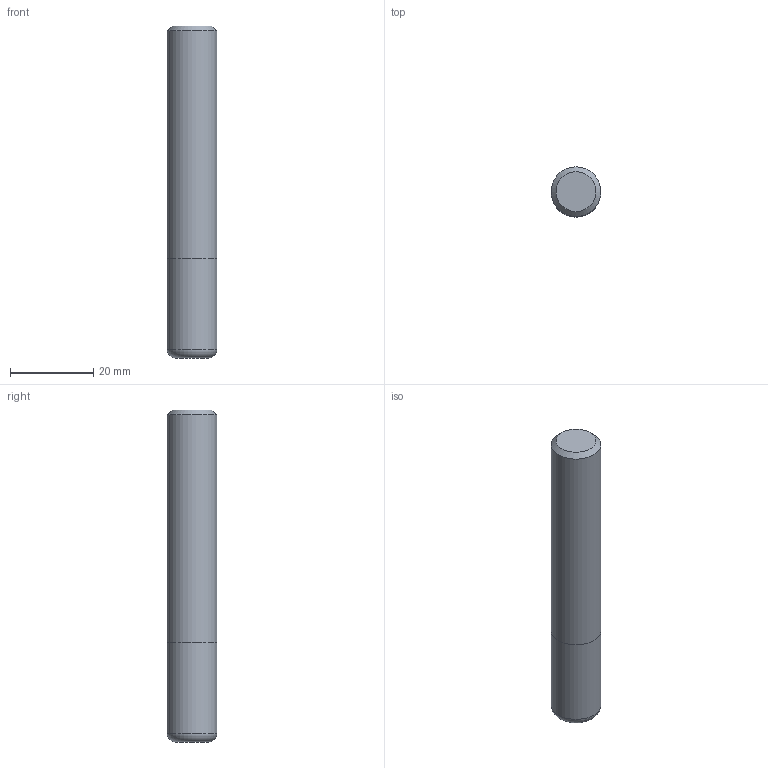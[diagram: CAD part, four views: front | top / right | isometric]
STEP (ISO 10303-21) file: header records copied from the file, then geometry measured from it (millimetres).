
FILE_DESCRIPTION((''),'2;1');
FILE_NAME('C:\Users\nsx150\AppData\Local\Temp\Mastercam 2021\Y59DX2IYLB\TEMP.step','2021-04-08T17:16:55',(''),(''),'STEP Write','Mastercam 2021 ... CNC Software, Inc.','');
FILE_SCHEMA(('AUTOMOTIVE_DESIGN'));
Length unit declared in the file: millimetre
Products named in the file (1): None
Bounding box: 12 x 12 x 80 mm (x, y, z)
Volume: 8992.5 mm3; surface area: 3405.8 mm2
Topology: 2 solids, 2 shells, 8 faces, 10 edges, 6 vertices
Faces by surface type: plane 4, cylinder 2, torus 1, cone 1
Full cylindrical faces by diameter (mm): 12 x2
Entity records: 190 total; most frequent: DIRECTION 32, CARTESIAN_POINT 22, AXIS2_PLACEMENT_3D 16, ORIENTED_EDGE 12, EDGE_LOOP 12, STYLED_ITEM 11, ADVANCED_FACE 8, FACE_BOUND 7
